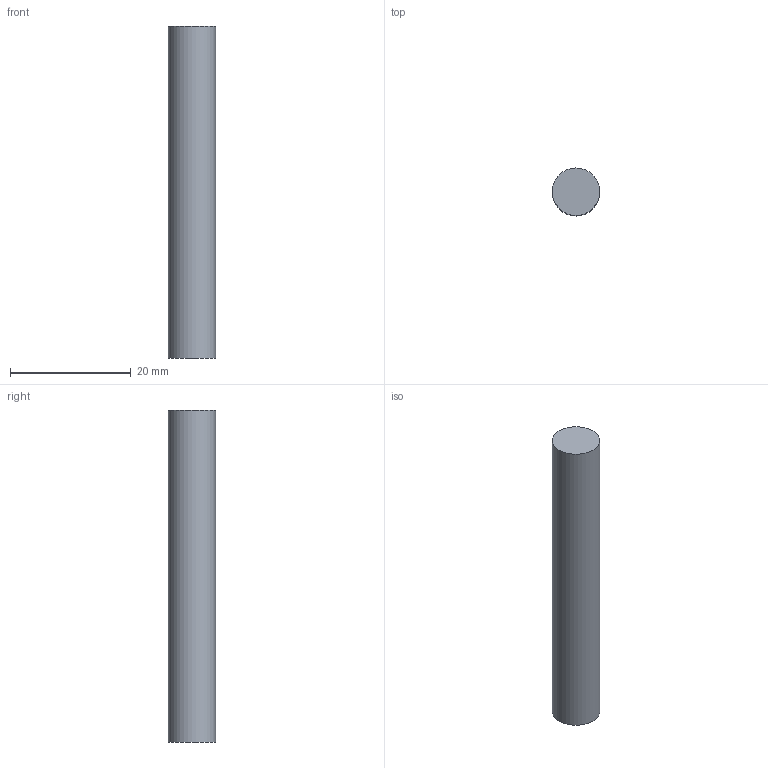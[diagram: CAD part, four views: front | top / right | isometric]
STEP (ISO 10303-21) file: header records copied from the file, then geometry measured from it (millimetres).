
FILE_DESCRIPTION(/* description */ (''),/* implementation_level */ '2;1');
FILE_NAME(/* name */ 'C:/Users/Rasika Jadhav/Downloads/Mission 2 FLoatSat/Rod v3.step',/* time_stamp */ '2022-05-16T03:24:51+02:00',/* author */ (''),/* organization */ (''),/* preprocessor_version */ 'ST-DEVELOPER v18.1',/* originating_system */ 'Autodesk Translation Framework v10.14.0.1471',/* authorisation */ '');
FILE_SCHEMA (('AUTOMOTIVE_DESIGN { 1 0 10303 214 3 1 1 }'));
Length unit declared in the file: millimetre
Products named in the file (1): Rod
Bounding box: 7.87 x 7.87 x 55 mm (x, y, z)
Volume: 2672.8 mm3; surface area: 1456.3 mm2
Topology: 1 solids, 1 shells, 3 faces, 3 edges, 2 vertices
Faces by surface type: plane 2, cylinder 1
Full cylindrical faces by diameter (mm): 7.866 x1
Entity records: 92 total; most frequent: DIRECTION 13, CARTESIAN_POINT 9, ORIENTED_EDGE 6, AXIS2_PLACEMENT_3D 6, FACE_OUTER_BOUND 3, EDGE_LOOP 3, EDGE_CURVE 3, ADVANCED_FACE 3
